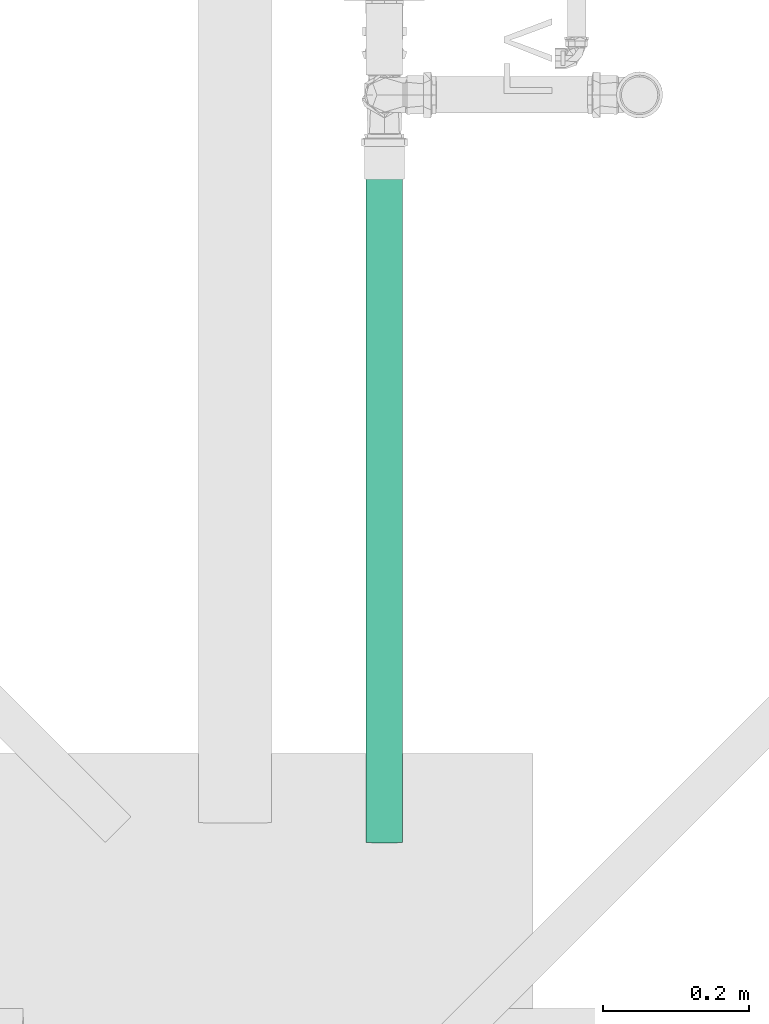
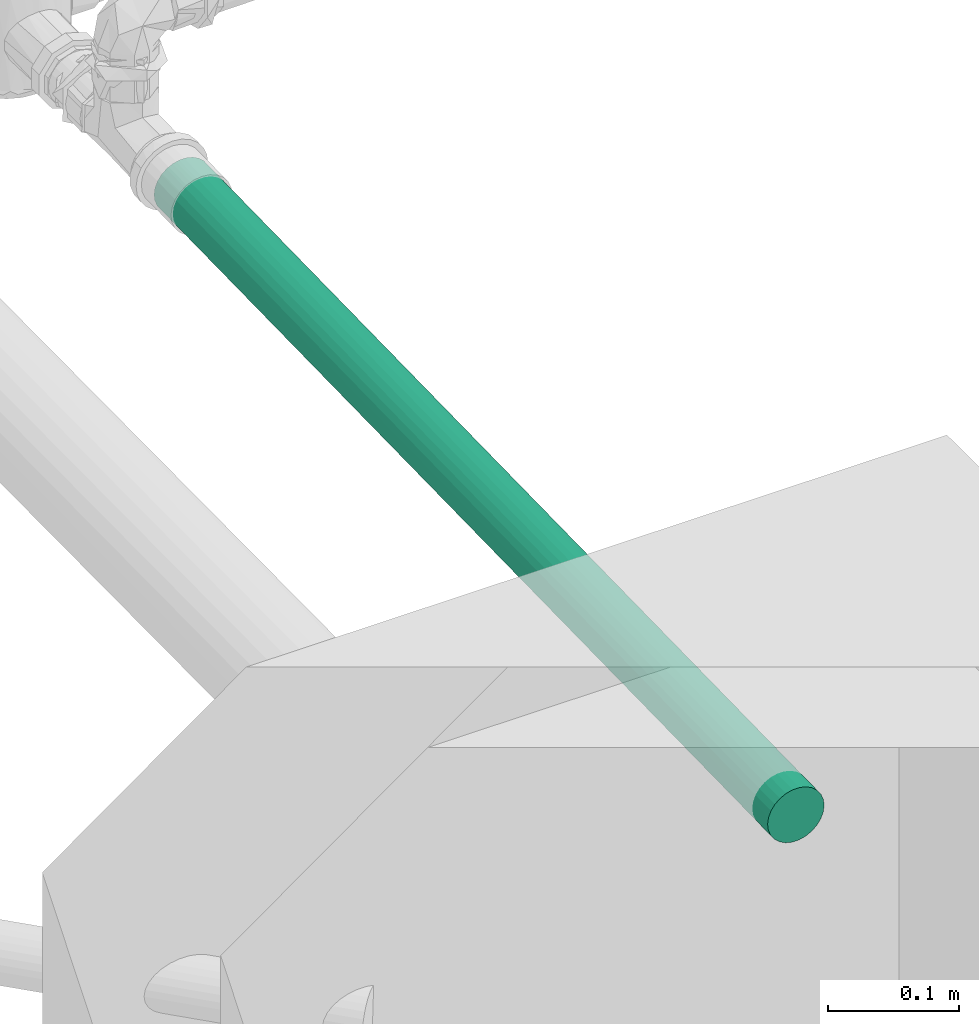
# One storey, part 133 of 589: 1 flow segment.
"""IFC2X3 building model written with IfcOpenShell, lengths in millimetres."""

from ifc_helpers import new_model, entity, si_unit, converted_unit, derived_unit, direction, frame, frame_2d, origin, place, context, subcontext, project, spatial, circle, extrude, type_object, element, save


model = new_model("IFC2X3")

# Units and contexts
model_context = context("Model", 3, precision=0.01, world=origin(), true_north=direction((6.123031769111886e-17, 1.0)))
body_context = subcontext(model_context, "Body", "Model", "MODEL_VIEW")
ifc_project = project(units=[si_unit("LENGTHUNIT", "METRE", prefix="MILLI"), si_unit("AREAUNIT", "SQUARE_METRE"), si_unit("VOLUMEUNIT", "CUBIC_METRE"), converted_unit("PLANEANGLEUNIT", "DEGREE", entity("IfcRatioMeasure", 0.017453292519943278), si_unit("PLANEANGLEUNIT", "RADIAN"), dimensions=[0, 0, 0, 0, 0, 0, 0]), si_unit("MASSUNIT", "GRAM", prefix="KILO"), derived_unit("MASSDENSITYUNIT", [(si_unit("MASSUNIT", "GRAM", prefix="KILO"), 1), (si_unit("LENGTHUNIT", "METRE"), -3)]), derived_unit("IONCONCENTRATIONUNIT", [(si_unit("MASSUNIT", "GRAM", prefix="KILO"), 1), (si_unit("LENGTHUNIT", "METRE"), -3)]), derived_unit("MOMENTOFINERTIAUNIT", [(si_unit("LENGTHUNIT", "METRE"), 4)]), si_unit("TIMEUNIT", "SECOND"), si_unit("FREQUENCYUNIT", "HERTZ"), si_unit("THERMODYNAMICTEMPERATUREUNIT", "DEGREE_CELSIUS"), derived_unit("THERMALTRANSMITTANCEUNIT", [(si_unit("MASSUNIT", "GRAM", prefix="KILO"), 1), (si_unit("THERMODYNAMICTEMPERATUREUNIT", "KELVIN"), -1), (si_unit("TIMEUNIT", "SECOND"), -3)]), derived_unit("THERMALCONDUCTANCEUNIT", [(si_unit("MASSUNIT", "GRAM", prefix="KILO"), 1), (si_unit("THERMODYNAMICTEMPERATUREUNIT", "KELVIN"), -1), (si_unit("TIMEUNIT", "SECOND"), -3), (si_unit("LENGTHUNIT", "METRE"), 1)]), derived_unit("VOLUMETRICFLOWRATEUNIT", [(si_unit("LENGTHUNIT", "METRE"), 3), (si_unit("TIMEUNIT", "SECOND"), -1)]), derived_unit("MASSFLOWRATEUNIT", [(si_unit("MASSUNIT", "GRAM", prefix="KILO"), 1), (si_unit("TIMEUNIT", "SECOND"), -1)]), derived_unit("ROTATIONALFREQUENCYUNIT", [(si_unit("TIMEUNIT", "SECOND"), -1)]), si_unit("ELECTRICCURRENTUNIT", "AMPERE"), si_unit("ELECTRICVOLTAGEUNIT", "VOLT"), si_unit("POWERUNIT", "WATT"), si_unit("FORCEUNIT", "NEWTON", prefix="KILO"), si_unit("ILLUMINANCEUNIT", "LUX"), si_unit("LUMINOUSFLUXUNIT", "LUMEN"), si_unit("LUMINOUSINTENSITYUNIT", "CANDELA"), derived_unit("USERDEFINED", [(si_unit("MASSUNIT", "GRAM", prefix="KILO"), -1), (si_unit("LENGTHUNIT", "METRE"), -2), (si_unit("TIMEUNIT", "SECOND"), 3), (si_unit("LUMINOUSFLUXUNIT", "LUMEN"), 1)]), derived_unit("USERDEFINED", [(si_unit("MASSUNIT", "GRAM", prefix="KILO"), 1), (si_unit("TIMEUNIT", "SECOND"), -3), (si_unit("LENGTHUNIT", "METRE"), 3), (si_unit("ELECTRICCURRENTUNIT", "AMPERE"), -2)]), derived_unit("SOUNDPOWERUNIT", [(si_unit("MASSUNIT", "GRAM", prefix="KILO"), 1), (si_unit("TIMEUNIT", "SECOND"), -3), (si_unit("LENGTHUNIT", "METRE"), 2)]), derived_unit("SOUNDPRESSUREUNIT", [(si_unit("MASSUNIT", "GRAM", prefix="KILO"), 1), (si_unit("LENGTHUNIT", "METRE"), -1), (si_unit("TIMEUNIT", "SECOND"), -2)]), derived_unit("LINEARVELOCITYUNIT", [(si_unit("LENGTHUNIT", "METRE"), 1), (si_unit("TIMEUNIT", "SECOND"), -1)]), si_unit("PRESSUREUNIT", "PASCAL"), derived_unit("USERDEFINED", [(si_unit("MASSUNIT", "GRAM", prefix="KILO"), 1), (si_unit("LENGTHUNIT", "METRE"), -2), (si_unit("TIMEUNIT", "SECOND"), -2)]), derived_unit("LINEARFORCEUNIT", [(si_unit("MASSUNIT", "GRAM", prefix="KILO"), 1), (si_unit("TIMEUNIT", "SECOND"), -2)]), derived_unit("PLANARFORCEUNIT", [(si_unit("MASSUNIT", "GRAM", prefix="KILO"), 1), (si_unit("LENGTHUNIT", "METRE"), -1), (si_unit("TIMEUNIT", "SECOND"), -2)]), derived_unit("SPECIFICHEATCAPACITYUNIT", [(si_unit("THERMODYNAMICTEMPERATUREUNIT", "KELVIN"), -1), (si_unit("LENGTHUNIT", "METRE"), 2), (si_unit("TIMEUNIT", "SECOND"), -2)]), derived_unit("HEATINGVALUEUNIT", [(si_unit("LENGTHUNIT", "METRE"), 2), (si_unit("TIMEUNIT", "SECOND"), -2)]), derived_unit("VAPORPERMEABILITYUNIT", [(si_unit("LENGTHUNIT", "METRE"), -1), (si_unit("TIMEUNIT", "SECOND"), 1)]), derived_unit("DYNAMICVISCOSITYUNIT", [(si_unit("MASSUNIT", "GRAM", prefix="KILO"), 1), (si_unit("TIMEUNIT", "SECOND"), -1), (si_unit("LENGTHUNIT", "METRE"), -1)]), derived_unit("THERMALEXPANSIONCOEFFICIENTUNIT", [(si_unit("THERMODYNAMICTEMPERATUREUNIT", "KELVIN"), -1)]), derived_unit("MODULUSOFELASTICITYUNIT", [(si_unit("MASSUNIT", "GRAM", prefix="KILO"), 1), (si_unit("LENGTHUNIT", "METRE"), -1), (si_unit("TIMEUNIT", "SECOND"), -2)]), derived_unit("ISOTHERMALMOISTURECAPACITYUNIT", [(si_unit("LENGTHUNIT", "METRE"), 3), (si_unit("MASSUNIT", "GRAM", prefix="KILO"), -1)]), derived_unit("MOISTUREDIFFUSIVITYUNIT", [(si_unit("TIMEUNIT", "SECOND"), -1), (si_unit("LENGTHUNIT", "METRE"), 2)])], contexts=[model_context])

# Site, building, storey
site_placement = place(None, origin())
site = spatial("IfcSite", under=ifc_project, at=site_placement, Name="Default", CompositionType="ELEMENT")
building_placement = place(site_placement, origin())
building = spatial("IfcBuilding", under=site, at=building_placement, CompositionType="ELEMENT")
storey_placement = place(building_placement, frame((0.0, 0.0, 100.0)))
storey = spatial("IfcBuildingStorey", under=building, at=storey_placement, Name="TÉRREO", CompositionType="ELEMENT", Elevation=100.0)

# Flow segment
pipe_segment_type = type_object("IfcPipeSegmentType", Name="Tipos de tubos:PVC Esgoto Série Normal", PredefinedType="NOTDEFINED")
flow_segment_placement = place(storey_placement, origin())
element("IfcFlowSegment", 1, at=flow_segment_placement, inside=storey, type_object=pipe_segment_type, Name="Tipos de tubos:PVC Esgoto Série Normal", ObjectType="Tipos de tubos:PVC Esgoto Série Normal", context=body_context, shape_type="SweptSolid", body=[
    extrude(circle(Radius=25.0, at=frame_2d((0.0, -3.3832831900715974e-14), x_axis=(1.0, 0.0))), frame((9003.026170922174, -10919.725678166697, -209.5646495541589), z_axis=(0.0, 0.9998000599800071, 0.019996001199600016), x_axis=(-1.0, 0.0, 0.0)), (0.0, 0.0, 1.0), 939.9999999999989),
])

save(model, "model.ifc")
